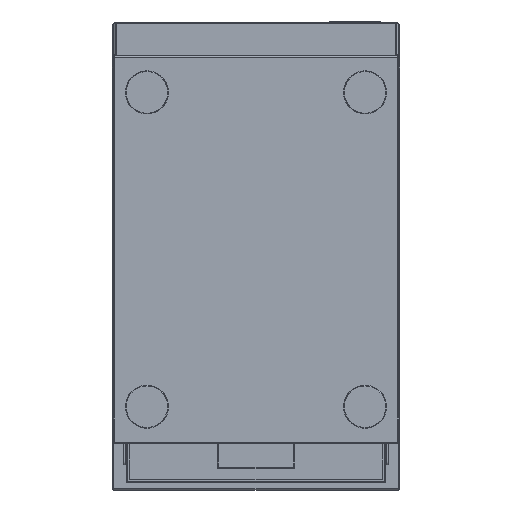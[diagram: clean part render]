
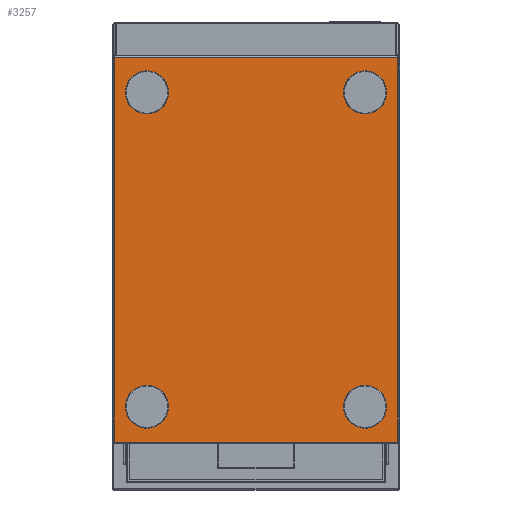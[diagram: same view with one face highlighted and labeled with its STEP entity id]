
A CAD part, front view. The second image highlights one B-rep face of the part: STEP entity #3257.
In plain terms, the highlighted planar face has unit normal (0, -1, 0).
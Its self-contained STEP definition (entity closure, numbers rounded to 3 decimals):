
#1044=CARTESIAN_POINT('',(152.,-352.5,-219.));
#1045=DIRECTION('',(0.,-1.,0.));
#1046=DIRECTION('',(1.,0.,0.));
#1047=AXIS2_PLACEMENT_3D('',#1044,#1045,#1046);
#1049=CARTESIAN_POINT('',(152.,-352.5,-219.));
#1050=DIRECTION('',(0.,-1.,0.));
#1051=DIRECTION('',(-1.,0.,0.));
#1052=AXIS2_PLACEMENT_3D('',#1049,#1050,#1051);
#1054=CARTESIAN_POINT('',(152.,-352.5,219.));
#1055=DIRECTION('',(0.,-1.,0.));
#1056=DIRECTION('',(1.,0.,0.));
#1057=AXIS2_PLACEMENT_3D('',#1054,#1055,#1056);
#1059=CARTESIAN_POINT('',(152.,-352.5,219.));
#1060=DIRECTION('',(0.,-1.,0.));
#1061=DIRECTION('',(-1.,0.,0.));
#1062=AXIS2_PLACEMENT_3D('',#1059,#1060,#1061);
#1064=CARTESIAN_POINT('',(-152.,-352.5,-219.));
#1065=DIRECTION('',(0.,1.,0.));
#1066=DIRECTION('',(-1.,0.,0.));
#1067=AXIS2_PLACEMENT_3D('',#1064,#1065,#1066);
#1069=CARTESIAN_POINT('',(-152.,-352.5,-219.));
#1070=DIRECTION('',(0.,1.,0.));
#1071=DIRECTION('',(1.,0.,0.));
#1072=AXIS2_PLACEMENT_3D('',#1069,#1070,#1071);
#1074=CARTESIAN_POINT('',(-152.,-352.5,219.));
#1075=DIRECTION('',(0.,1.,0.));
#1076=DIRECTION('',(-1.,0.,0.));
#1077=AXIS2_PLACEMENT_3D('',#1074,#1075,#1076);
#1079=CARTESIAN_POINT('',(-152.,-352.5,219.));
#1080=DIRECTION('',(0.,1.,0.));
#1081=DIRECTION('',(1.,0.,0.));
#1082=AXIS2_PLACEMENT_3D('',#1079,#1080,#1081);
#1084=DIRECTION('',(0.,0.,-1.));
#1085=VECTOR('',#1084,536.4);
#1086=CARTESIAN_POINT('',(197.2,-352.5,268.2));
#1087=LINE('',#1086,#1085);
#1088=DIRECTION('',(-1.,0.,0.));
#1089=VECTOR('',#1088,394.4);
#1090=CARTESIAN_POINT('',(197.2,-352.5,-268.2));
#1091=LINE('',#1090,#1089);
#1092=DIRECTION('',(0.,0.,1.));
#1093=VECTOR('',#1092,536.4);
#1094=CARTESIAN_POINT('',(-197.2,-352.5,-268.2));
#1095=LINE('',#1094,#1093);
#1096=DIRECTION('',(-1.,0.,0.));
#1097=VECTOR('',#1096,394.4);
#1098=CARTESIAN_POINT('',(197.2,-352.5,268.2));
#1099=LINE('',#1098,#1097);
#1622=CARTESIAN_POINT('',(182.,-352.5,-219.));
#1623=CARTESIAN_POINT('',(122.,-352.5,-219.));
#1624=VERTEX_POINT('',#1622);
#1625=VERTEX_POINT('',#1623);
#1654=CARTESIAN_POINT('',(197.2,-352.5,268.2));
#1655=CARTESIAN_POINT('',(197.2,-352.5,-268.2));
#1656=VERTEX_POINT('',#1654);
#1657=VERTEX_POINT('',#1655);
#1660=CARTESIAN_POINT('',(-197.2,-352.5,268.2));
#1661=VERTEX_POINT('',#1660);
#1664=CARTESIAN_POINT('',(-197.2,-352.5,-268.2));
#1665=VERTEX_POINT('',#1664);
#1722=CARTESIAN_POINT('',(182.,-352.5,219.));
#1723=CARTESIAN_POINT('',(122.,-352.5,219.));
#1724=VERTEX_POINT('',#1722);
#1725=VERTEX_POINT('',#1723);
#1730=CARTESIAN_POINT('',(-182.,-352.5,-219.));
#1731=VERTEX_POINT('',#1730);
#1732=CARTESIAN_POINT('',(-122.,-352.5,-219.));
#1733=VERTEX_POINT('',#1732);
#1738=CARTESIAN_POINT('',(-182.,-352.5,219.));
#1739=VERTEX_POINT('',#1738);
#1740=CARTESIAN_POINT('',(-122.,-352.5,219.));
#1741=VERTEX_POINT('',#1740);
#3220=CARTESIAN_POINT('',(-199.,-352.5,270.));
#3221=DIRECTION('',(0.,-1.,0.));
#3222=DIRECTION('',(0.,0.,-1.));
#3223=AXIS2_PLACEMENT_3D('',#3220,#3221,#3222);
#3224=PLANE('',#3223);
#3226=ORIENTED_EDGE('',*,*,#3225,.T.);
#3228=ORIENTED_EDGE('',*,*,#3227,.T.);
#3229=ORIENTED_EDGE('',*,*,#3188,.T.);
#3230=ORIENTED_EDGE('',*,*,#3211,.F.);
#3231=EDGE_LOOP('',(#3226,#3228,#3229,#3230));
#3232=FACE_OUTER_BOUND('',#3231,.F.);
#3234=ORIENTED_EDGE('',*,*,#3233,.T.);
#3236=ORIENTED_EDGE('',*,*,#3235,.T.);
#3237=EDGE_LOOP('',(#3234,#3236));
#3238=FACE_BOUND('',#3237,.F.);
#3240=ORIENTED_EDGE('',*,*,#3239,.F.);
#3242=ORIENTED_EDGE('',*,*,#3241,.F.);
#3243=EDGE_LOOP('',(#3240,#3242));
#3244=FACE_BOUND('',#3243,.F.);
#3246=ORIENTED_EDGE('',*,*,#3245,.F.);
#3248=ORIENTED_EDGE('',*,*,#3247,.F.);
#3249=EDGE_LOOP('',(#3246,#3248));
#3250=FACE_BOUND('',#3249,.F.);
#3252=ORIENTED_EDGE('',*,*,#3251,.T.);
#3254=ORIENTED_EDGE('',*,*,#3253,.T.);
#3255=EDGE_LOOP('',(#3252,#3254));
#3256=FACE_BOUND('',#3255,.F.);
#1048=CIRCLE('',#1047,30.);
#1053=CIRCLE('',#1052,30.);
#1058=CIRCLE('',#1057,30.);
#1063=CIRCLE('',#1062,30.);
#1068=CIRCLE('',#1067,30.);
#1073=CIRCLE('',#1072,30.);
#1078=CIRCLE('',#1077,30.);
#1083=CIRCLE('',#1082,30.);
#3188=EDGE_CURVE('',#1665,#1661,#1095,.T.);
#3211=EDGE_CURVE('',#1656,#1661,#1099,.T.);
#3225=EDGE_CURVE('',#1656,#1657,#1087,.T.);
#3227=EDGE_CURVE('',#1657,#1665,#1091,.T.);
#3233=EDGE_CURVE('',#1724,#1725,#1058,.T.);
#3235=EDGE_CURVE('',#1725,#1724,#1063,.T.);
#3239=EDGE_CURVE('',#1731,#1733,#1068,.T.);
#3241=EDGE_CURVE('',#1733,#1731,#1073,.T.);
#3245=EDGE_CURVE('',#1739,#1741,#1078,.T.);
#3247=EDGE_CURVE('',#1741,#1739,#1083,.T.);
#3251=EDGE_CURVE('',#1624,#1625,#1048,.T.);
#3253=EDGE_CURVE('',#1625,#1624,#1053,.T.);
#3257=ADVANCED_FACE('',(#3232,#3238,#3244,#3250,#3256),#3224,.T.);
